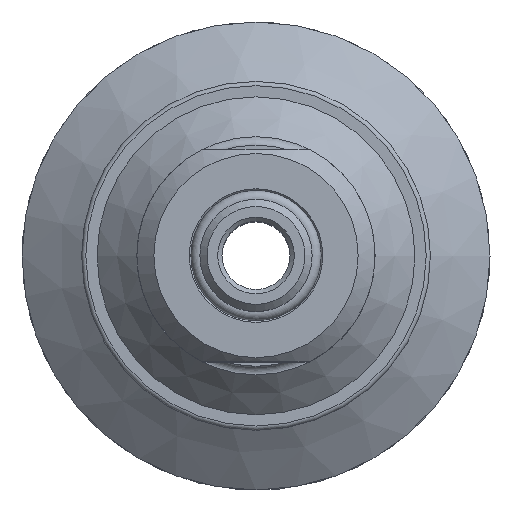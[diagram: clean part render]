
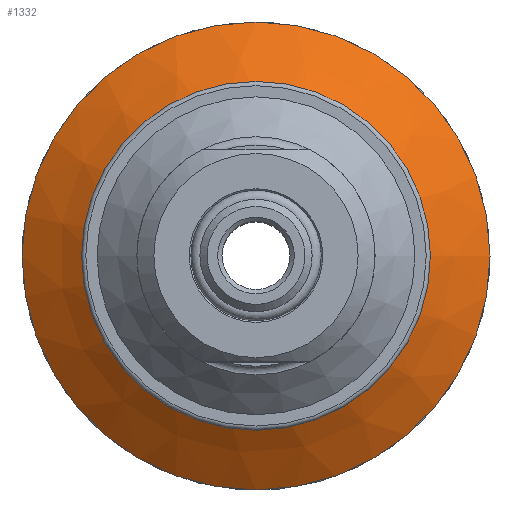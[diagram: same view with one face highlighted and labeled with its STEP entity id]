
A CAD part, top view. The second image highlights one B-rep face of the part: STEP entity #1332.
In plain terms, the highlighted conical face has half-angle 54.513 degrees and reference radius 27.5 mm.
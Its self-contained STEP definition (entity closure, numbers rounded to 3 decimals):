
#1332 = ADVANCED_FACE( '', ( #2680, #2681 ), #2682, .T. );
#2680 = FACE_BOUND( '', #3670, .T. );
#2681 = FACE_OUTER_BOUND( '', #3671, .T. );
#2682 = CONICAL_SURFACE( '', #3672, 27.5, 0.951 );
#3670 = EDGE_LOOP( '', ( #4953 ) );
#3671 = EDGE_LOOP( '', ( #4954 ) );
#3672 = AXIS2_PLACEMENT_3D( '', #4955, #4956, #4957 );
#4953 = ORIENTED_EDGE( '', *, *, #8660, .F. );
#4954 = ORIENTED_EDGE( '', *, *, #8661, .T. );
#4955 = CARTESIAN_POINT( '', ( 0., 0., -5.218 ) );
#4956 = DIRECTION( '', ( 0., 0., -1. ) );
#4957 = DIRECTION( '', ( -1., 0., 0. ) );
#8660 = EDGE_CURVE( '', #9677, #9677, #9678, .T. );
#8661 = EDGE_CURVE( '', #9679, #9679, #9680, .T. );
#9677 = VERTEX_POINT( '', #10911 );
#9678 = CIRCLE( '', #10912, 18.81 );
#9679 = VERTEX_POINT( '', #10913 );
#9680 = CIRCLE( '', #10914, 27.5 );
#10911 = CARTESIAN_POINT( '', ( 18.81, 0., 0.978 ) );
#10912 = AXIS2_PLACEMENT_3D( '', #13619, #13620, #13621 );
#10913 = CARTESIAN_POINT( '', ( 27.5, 0., -5.218 ) );
#10914 = AXIS2_PLACEMENT_3D( '', #13622, #13623, #13624 );
#13619 = CARTESIAN_POINT( '', ( 0., 0., 0.978 ) );
#13620 = DIRECTION( '', ( 0., 0., 1. ) );
#13621 = DIRECTION( '', ( 1., 0., 0. ) );
#13622 = CARTESIAN_POINT( '', ( 0., 0., -5.218 ) );
#13623 = DIRECTION( '', ( 0., 0., 1. ) );
#13624 = DIRECTION( '', ( 1., 0., 0. ) );
